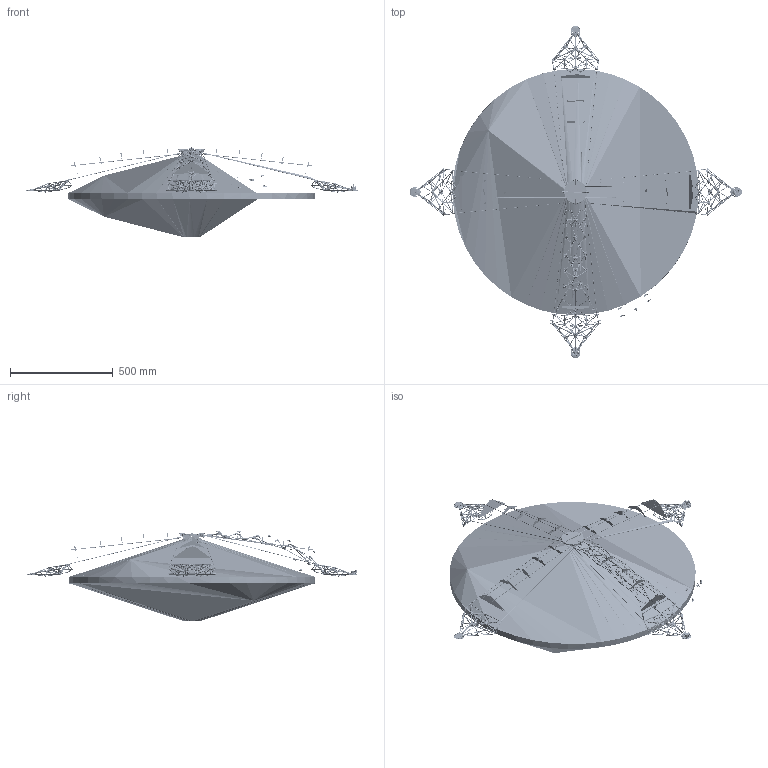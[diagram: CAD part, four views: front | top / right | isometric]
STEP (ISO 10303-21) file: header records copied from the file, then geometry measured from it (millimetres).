
FILE_DESCRIPTION(/* description */ (''),/* implementation_level */ '2;1');
FILE_NAME(/* name */ '_spaceframe_FinalProject',/* time_stamp */ '2017-06-28T07:29:10+02:00',/* author */ (''),/* organization */ (''),/* preprocessor_version */ 'ST-DEVELOPER v15',/* originating_system */ '',/* authorisation */ '');
FILE_SCHEMA (('AUTOMOTIVE_DESIGN'));
Products named in the file (1): Document
Bounding box: 1613.6 x 1609.06 x 439.42 mm (x, y, z)
Volume: 431858646.7 mm3; surface area: 5363576.7 mm2
Topology: 886 solids, 918 shells, 12237 faces, 29787 edges, 19123 vertices
Faces by surface type: bspline 11219, plane 1018
Entity records: 647806 total; most frequent: CARTESIAN_POINT 484132, ORIENTED_EDGE 56862, EDGE_CURVE 28494, VERTEX_POINT 18498, EDGE_LOOP 13559, ADVANCED_FACE 12189, FACE_OUTER_BOUND 12189, B_SPLINE_CURVE_WITH_KNOTS 7848
